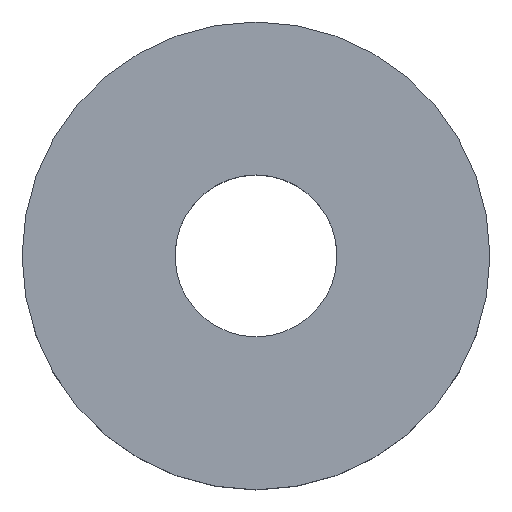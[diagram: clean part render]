
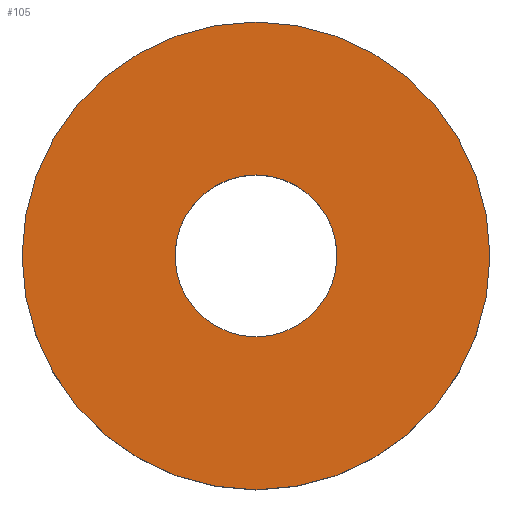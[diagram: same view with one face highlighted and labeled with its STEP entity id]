
A CAD part, top view. The second image highlights one B-rep face of the part: STEP entity #105.
In plain terms, the highlighted planar face has unit normal (0, 0, 1).
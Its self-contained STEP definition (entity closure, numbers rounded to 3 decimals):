
#21 = EDGE_CURVE('',#22,#22,#24,.T.);
#22 = VERTEX_POINT('',#23);
#23 = CARTESIAN_POINT('',(9.25,0.,0.));
#24 = SURFACE_CURVE('',#25,(#30,#42),.PCURVE_S1.);
#25 = CIRCLE('',#26,9.25);
#26 = AXIS2_PLACEMENT_3D('',#27,#28,#29);
#27 = CARTESIAN_POINT('',(0.,0.,0.));
#28 = DIRECTION('',(0.,0.,1.));
#29 = DIRECTION('',(1.,0.,-0.));
#30 = PCURVE('',#31,#36);
#31 = CYLINDRICAL_SURFACE('',#32,9.25);
#32 = AXIS2_PLACEMENT_3D('',#33,#34,#35);
#33 = CARTESIAN_POINT('',(0.,0.,-4.));
#34 = DIRECTION('',(0.,0.,1.));
#35 = DIRECTION('',(1.,0.,-0.));
#36 = DEFINITIONAL_REPRESENTATION('',(#37),#41);
#37 = LINE('',#38,#39);
#38 = CARTESIAN_POINT('',(0.,4.));
#39 = VECTOR('',#40,1.);
#40 = DIRECTION('',(1.,0.));
#41 = ( GEOMETRIC_REPRESENTATION_CONTEXT(2) 
PARAMETRIC_REPRESENTATION_CONTEXT() REPRESENTATION_CONTEXT('2D SPACE',''
  ) );
#42 = PCURVE('',#43,#48);
#43 = PLANE('',#44);
#44 = AXIS2_PLACEMENT_3D('',#45,#46,#47);
#45 = CARTESIAN_POINT('',(0.,0.,0.));
#46 = DIRECTION('',(0.,0.,1.));
#47 = DIRECTION('',(1.,0.,-0.));
#48 = DEFINITIONAL_REPRESENTATION('',(#49),#53);
#49 = CIRCLE('',#50,9.25);
#50 = AXIS2_PLACEMENT_2D('',#51,#52);
#51 = CARTESIAN_POINT('',(0.,0.));
#52 = DIRECTION('',(1.,0.));
#53 = ( GEOMETRIC_REPRESENTATION_CONTEXT(2) 
PARAMETRIC_REPRESENTATION_CONTEXT() REPRESENTATION_CONTEXT('2D SPACE',''
  ) );
#105 = ADVANCED_FACE('',(#106,#109),#43,.T.);
#106 = FACE_BOUND('',#107,.T.);
#107 = EDGE_LOOP('',(#108));
#108 = ORIENTED_EDGE('',*,*,#21,.T.);
#109 = FACE_BOUND('',#110,.T.);
#110 = EDGE_LOOP('',(#111));
#111 = ORIENTED_EDGE('',*,*,#112,.F.);
#112 = EDGE_CURVE('',#113,#113,#115,.T.);
#113 = VERTEX_POINT('',#114);
#114 = CARTESIAN_POINT('',(3.2,0.,0.));
#115 = SURFACE_CURVE('',#116,(#121,#128),.PCURVE_S1.);
#116 = CIRCLE('',#117,3.2);
#117 = AXIS2_PLACEMENT_3D('',#118,#119,#120);
#118 = CARTESIAN_POINT('',(0.,0.,0.));
#119 = DIRECTION('',(0.,0.,1.));
#120 = DIRECTION('',(1.,0.,-0.));
#121 = PCURVE('',#43,#122);
#122 = DEFINITIONAL_REPRESENTATION('',(#123),#127);
#123 = CIRCLE('',#124,3.2);
#124 = AXIS2_PLACEMENT_2D('',#125,#126);
#125 = CARTESIAN_POINT('',(0.,0.));
#126 = DIRECTION('',(1.,0.));
#127 = ( GEOMETRIC_REPRESENTATION_CONTEXT(2) 
PARAMETRIC_REPRESENTATION_CONTEXT() REPRESENTATION_CONTEXT('2D SPACE',''
  ) );
#128 = PCURVE('',#129,#134);
#129 = CYLINDRICAL_SURFACE('',#130,3.2);
#130 = AXIS2_PLACEMENT_3D('',#131,#132,#133);
#131 = CARTESIAN_POINT('',(0.,0.,-5.));
#132 = DIRECTION('',(0.,0.,1.));
#133 = DIRECTION('',(1.,0.,-0.));
#134 = DEFINITIONAL_REPRESENTATION('',(#135),#139);
#135 = LINE('',#136,#137);
#136 = CARTESIAN_POINT('',(0.,5.));
#137 = VECTOR('',#138,1.);
#138 = DIRECTION('',(1.,0.));
#139 = ( GEOMETRIC_REPRESENTATION_CONTEXT(2) 
PARAMETRIC_REPRESENTATION_CONTEXT() REPRESENTATION_CONTEXT('2D SPACE',''
  ) );
